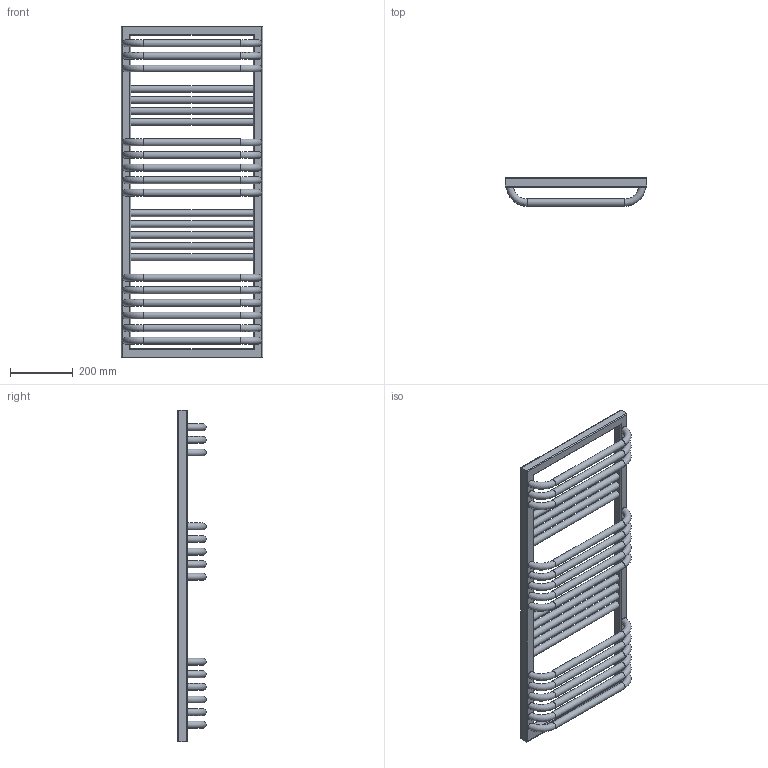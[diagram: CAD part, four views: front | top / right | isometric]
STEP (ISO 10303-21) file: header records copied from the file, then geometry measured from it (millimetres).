
FILE_DESCRIPTION((''),'2;1');
FILE_NAME('Z:\R\G\P\RGPH18 - Grzejnik POC\Work\Inventor\POC 1-6-8 v2.0\Marketing\AutoCad 3D\POC-1055-450-1-6-8.stp','2012-07-12T14:39:40',('KurKa'),(''),'Autodesk Inventor 2012','Autodesk Inventor 2012','');
FILE_SCHEMA(('AUTOMOTIVE_DESIGN { 1 0 10303 214 1 1 1 1 }'));
Length unit declared in the file: millimetre
Products named in the file (1): POC-1055-450-1-6-8
Bounding box: 450 x 90 x 1055 mm (x, y, z)
Volume: 6415038.7 mm3; surface area: 1014788.4 mm2
Topology: 1 solids, 1 shells, 86 faces, 224 edges, 143 vertices
Faces by surface type: cylinder 42, torus 31, plane 13
Full cylindrical faces by diameter (mm): 18.631 x3, 22 x23
Entity records: 3976 total; most frequent: CARTESIAN_POINT 2161, DIRECTION 356, ORIENTED_EDGE 278, EDGE_LOOP 194, AXIS2_PLACEMENT_3D 158, EDGE_CURVE 139, VERTEX_POINT 115, FACE_BOUND 108
